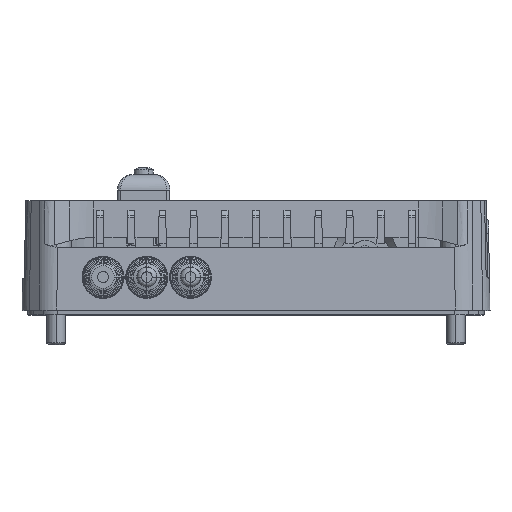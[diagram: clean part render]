
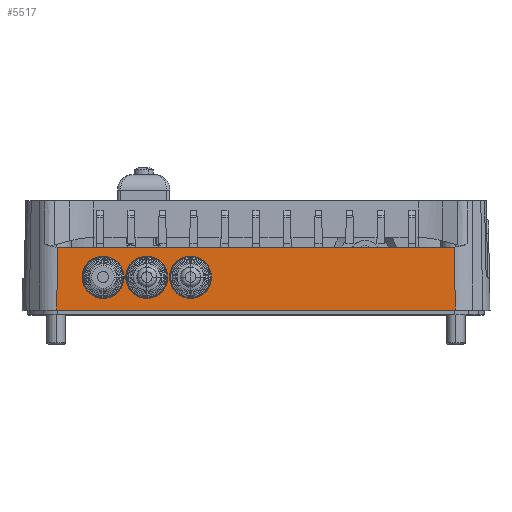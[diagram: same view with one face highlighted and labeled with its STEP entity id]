
A CAD part, top view. The second image highlights one B-rep face of the part: STEP entity #5517.
In plain terms, the highlighted planar face has unit normal (0, 0.018, 1).
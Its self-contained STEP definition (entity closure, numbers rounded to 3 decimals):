
#852 = CARTESIAN_POINT ( 'NONE',  ( 63.829, 0., 55. ) ) ;
#1308 =( BOUNDED_CURVE ( )  B_SPLINE_CURVE ( 3, ( #113474, #8303, #16390, #69906 ),
 .UNSPECIFIED., .F., .F. ) 
 B_SPLINE_CURVE_WITH_KNOTS ( ( 4, 4 ),
 ( 4.712, 7.854 ),
 .UNSPECIFIED. ) 
 CURVE ( )  GEOMETRIC_REPRESENTATION_ITEM ( )  RATIONAL_B_SPLINE_CURVE ( ( 1., 0.333, 0.333, 1. ) ) 
 REPRESENTATION_ITEM ( '' )  );
#1724 = EDGE_LOOP ( 'NONE', ( #67493, #62334 ) ) ;
#3405 = FACE_BOUND ( 'NONE', #1724, .T. ) ;
#3444 = CARTESIAN_POINT ( 'NONE',  ( -15.5, 10.5, 54.817 ) ) ;
#3655 = EDGE_CURVE ( 'NONE', #85251, #34090, #27007, .T. ) ;
#5517 = ADVANCED_FACE ( 'NONE', ( #44699, #3405, #21277, #84577 ), #25330, .T. ) ;
#7105 = CARTESIAN_POINT ( 'NONE',  ( -67.07, 20.178, 54.648 ) ) ;
#7570 = VERTEX_POINT ( 'NONE', #111844 ) ;
#8303 = CARTESIAN_POINT ( 'NONE',  ( -29.5, 21.5, 54.625 ) ) ;
#9274 = CARTESIAN_POINT ( 'NONE',  ( -26.5, 21.5, 54.625 ) ) ;
#9590 = LINE ( 'NONE', #39801, #27487 ) ;
#15529 = VERTEX_POINT ( 'NONE', #86764 ) ;
#15656 = CARTESIAN_POINT ( 'NONE',  ( -43.5, 10.5, 54.817 ) ) ;
#16091 = ORIENTED_EDGE ( 'NONE', *, *, #71201, .F. ) ;
#16390 = CARTESIAN_POINT ( 'NONE',  ( -40.5, 21.5, 54.625 ) ) ;
#17729 = CARTESIAN_POINT ( 'NONE',  ( -15.5, 21.5, 54.625 ) ) ;
#18499 = CARTESIAN_POINT ( 'NONE',  ( -15.5, 10.5, 54.817 ) ) ;
#18607 = EDGE_CURVE ( 'NONE', #53584, #15529, #71764, .T. ) ;
#19972 = CARTESIAN_POINT ( 'NONE',  ( -26.5, 10.5, 54.817 ) ) ;
#20124 = ORIENTED_EDGE ( 'NONE', *, *, #3655, .T. ) ;
#21277 = FACE_BOUND ( 'NONE', #60084, .T. ) ;
#22273 = CARTESIAN_POINT ( 'NONE',  ( -40.5, 10.5, 54.817 ) ) ;
#24814 = VERTEX_POINT ( 'NONE', #15656 ) ;
#25330 = PLANE ( 'NONE',  #49048 ) ;
#25420 = CARTESIAN_POINT ( 'NONE',  ( -54.5, 10.5, 54.817 ) ) ;
#26146 = ORIENTED_EDGE ( 'NONE', *, *, #42400, .T. ) ;
#27007 = LINE ( 'NONE', #42550, #83437 ) ;
#27162 = CARTESIAN_POINT ( 'NONE',  ( -54.5, 10.5, 54.817 ) ) ;
#27487 = VECTOR ( 'NONE', #57507, 1000. ) ;
#27928 = CARTESIAN_POINT ( 'NONE',  ( -43.5, -0.5, 55.009 ) ) ;
#32626 = LINE ( 'NONE', #78309, #113962 ) ;
#32895 = ORIENTED_EDGE ( 'NONE', *, *, #87074, .F. ) ;
#33044 = CARTESIAN_POINT ( 'NONE',  ( -43.5, 10.5, 54.817 ) ) ;
#34090 = VERTEX_POINT ( 'NONE', #78773 ) ;
#36036 = CARTESIAN_POINT ( 'NONE',  ( -54.5, -0.5, 55.009 ) ) ;
#37159 = EDGE_CURVE ( 'NONE', #65283, #113037, #9590, .T. ) ;
#37345 = LINE ( 'NONE', #7105, #88088 ) ;
#39801 = CARTESIAN_POINT ( 'NONE',  ( 63.829, -0.024, 55. ) ) ;
#41879 = CARTESIAN_POINT ( 'NONE',  ( -54.5, 21.5, 54.625 ) ) ;
#42400 = EDGE_CURVE ( 'NONE', #34090, #65283, #32626, .T. ) ;
#42550 = CARTESIAN_POINT ( 'NONE',  ( -63.822, 0.947, 54.983 ) ) ;
#44699 = FACE_OUTER_BOUND ( 'NONE', #75689, .T. ) ;
#48279 = CARTESIAN_POINT ( 'NONE',  ( -29.5, 10.5, 54.817 ) ) ;
#49048 = AXIS2_PLACEMENT_3D ( 'NONE', #61128, #86937, #69213 ) ;
#49479 = VERTEX_POINT ( 'NONE', #25420 ) ;
#49582 =( BOUNDED_CURVE ( )  B_SPLINE_CURVE ( 3, ( #22273, #83847, #100794, #83089 ),
 .UNSPECIFIED., .F., .F. ) 
 B_SPLINE_CURVE_WITH_KNOTS ( ( 4, 4 ),
 ( 1.571, 4.712 ),
 .UNSPECIFIED. ) 
 CURVE ( )  GEOMETRIC_REPRESENTATION_ITEM ( )  RATIONAL_B_SPLINE_CURVE ( ( 1., 0.333, 0.333, 1. ) ) 
 REPRESENTATION_ITEM ( '' )  );
#50672 = EDGE_CURVE ( 'NONE', #15529, #53584, #66631, .T. ) ;
#51737 = DIRECTION ( 'NONE',  ( 1., 0., 0. ) ) ;
#52384 = CARTESIAN_POINT ( 'NONE',  ( -26.5, 10.5, 54.817 ) ) ;
#53584 = VERTEX_POINT ( 'NONE', #3444 ) ;
#54118 = CARTESIAN_POINT ( 'NONE',  ( -43.5, 10.5, 54.817 ) ) ;
#55628 = EDGE_CURVE ( 'NONE', #85251, #113037, #37345, .T. ) ;
#57507 = DIRECTION ( 'NONE',  ( -0.007, 1., -0.017 ) ) ;
#59215 = CARTESIAN_POINT ( 'NONE',  ( -43.5, 21.5, 54.625 ) ) ;
#59501 =( BOUNDED_CURVE ( )  B_SPLINE_CURVE ( 3, ( #27162, #36036, #27928, #54118 ),
 .UNSPECIFIED., .F., .F. ) 
 B_SPLINE_CURVE_WITH_KNOTS ( ( 4, 4 ),
 ( 1.571, 4.712 ),
 .UNSPECIFIED. ) 
 CURVE ( )  GEOMETRIC_REPRESENTATION_ITEM ( )  RATIONAL_B_SPLINE_CURVE ( ( 1., 0.333, 0.333, 1. ) ) 
 REPRESENTATION_ITEM ( '' )  );
#60084 = EDGE_LOOP ( 'NONE', ( #109109, #32895 ) ) ;
#61128 = CARTESIAN_POINT ( 'NONE',  ( 67.142, 0., 55. ) ) ;
#62334 = ORIENTED_EDGE ( 'NONE', *, *, #18607, .F. ) ;
#65283 = VERTEX_POINT ( 'NONE', #852 ) ;
#66631 =( BOUNDED_CURVE ( )  B_SPLINE_CURVE ( 3, ( #19972, #90443, #81587, #90051 ),
 .UNSPECIFIED., .F., .F. ) 
 B_SPLINE_CURVE_WITH_KNOTS ( ( 4, 4 ),
 ( 1.571, 4.712 ),
 .UNSPECIFIED. ) 
 CURVE ( )  GEOMETRIC_REPRESENTATION_ITEM ( )  RATIONAL_B_SPLINE_CURVE ( ( 1., 0.333, 0.333, 1. ) ) 
 REPRESENTATION_ITEM ( '' )  );
#67493 = ORIENTED_EDGE ( 'NONE', *, *, #50672, .F. ) ;
#69048 = DIRECTION ( 'NONE',  ( 1., 0., 0. ) ) ;
#69213 = DIRECTION ( 'NONE',  ( 0., -1., 0.017 ) ) ;
#69906 = CARTESIAN_POINT ( 'NONE',  ( -40.5, 10.5, 54.817 ) ) ;
#71201 = EDGE_CURVE ( 'NONE', #49479, #24814, #59501, .T. ) ;
#71764 =( BOUNDED_CURVE ( )  B_SPLINE_CURVE ( 3, ( #18499, #17729, #9274, #52384 ),
 .UNSPECIFIED., .F., .F. ) 
 B_SPLINE_CURVE_WITH_KNOTS ( ( 4, 4 ),
 ( 4.712, 7.854 ),
 .UNSPECIFIED. ) 
 CURVE ( )  GEOMETRIC_REPRESENTATION_ITEM ( )  RATIONAL_B_SPLINE_CURVE ( ( 1., 0.333, 0.333, 1. ) ) 
 REPRESENTATION_ITEM ( '' )  );
#72039 = ORIENTED_EDGE ( 'NONE', *, *, #37159, .T. ) ;
#73728 = EDGE_LOOP ( 'NONE', ( #16091, #94899 ) ) ;
#74111 = EDGE_CURVE ( 'NONE', #7570, #98490, #49582, .T. ) ;
#74238 = EDGE_CURVE ( 'NONE', #24814, #49479, #109613, .T. ) ;
#75689 = EDGE_LOOP ( 'NONE', ( #26146, #72039, #87581, #20124 ) ) ;
#78309 = CARTESIAN_POINT ( 'NONE',  ( 67.142, 0., 55. ) ) ;
#78773 = CARTESIAN_POINT ( 'NONE',  ( -63.829, 0., 55. ) ) ;
#81587 = CARTESIAN_POINT ( 'NONE',  ( -15.5, -0.5, 55.009 ) ) ;
#83089 = CARTESIAN_POINT ( 'NONE',  ( -29.5, 10.5, 54.817 ) ) ;
#83437 = VECTOR ( 'NONE', #86786, 1000. ) ;
#83847 = CARTESIAN_POINT ( 'NONE',  ( -40.5, -0.5, 55.009 ) ) ;
#84528 = CARTESIAN_POINT ( 'NONE',  ( -63.683, 20.178, 54.648 ) ) ;
#84577 = FACE_BOUND ( 'NONE', #73728, .T. ) ;
#85251 = VERTEX_POINT ( 'NONE', #84528 ) ;
#86764 = CARTESIAN_POINT ( 'NONE',  ( -26.5, 10.5, 54.817 ) ) ;
#86786 = DIRECTION ( 'NONE',  ( -0.007, -1., 0.017 ) ) ;
#86937 = DIRECTION ( 'NONE',  ( 0., 0.017, 1. ) ) ;
#87074 = EDGE_CURVE ( 'NONE', #98490, #7570, #1308, .T. ) ;
#87441 = CARTESIAN_POINT ( 'NONE',  ( 63.683, 20.178, 54.648 ) ) ;
#87581 = ORIENTED_EDGE ( 'NONE', *, *, #55628, .F. ) ;
#88088 = VECTOR ( 'NONE', #69048, 1000. ) ;
#90051 = CARTESIAN_POINT ( 'NONE',  ( -15.5, 10.5, 54.817 ) ) ;
#90443 = CARTESIAN_POINT ( 'NONE',  ( -26.5, -0.5, 55.009 ) ) ;
#94899 = ORIENTED_EDGE ( 'NONE', *, *, #74238, .F. ) ;
#98490 = VERTEX_POINT ( 'NONE', #48279 ) ;
#100794 = CARTESIAN_POINT ( 'NONE',  ( -29.5, -0.5, 55.009 ) ) ;
#109109 = ORIENTED_EDGE ( 'NONE', *, *, #74111, .F. ) ;
#109613 =( BOUNDED_CURVE ( )  B_SPLINE_CURVE ( 3, ( #33044, #59215, #41879, #112367 ),
 .UNSPECIFIED., .F., .F. ) 
 B_SPLINE_CURVE_WITH_KNOTS ( ( 4, 4 ),
 ( 4.712, 7.854 ),
 .UNSPECIFIED. ) 
 CURVE ( )  GEOMETRIC_REPRESENTATION_ITEM ( )  RATIONAL_B_SPLINE_CURVE ( ( 1., 0.333, 0.333, 1. ) ) 
 REPRESENTATION_ITEM ( '' )  );
#111844 = CARTESIAN_POINT ( 'NONE',  ( -40.5, 10.5, 54.817 ) ) ;
#112367 = CARTESIAN_POINT ( 'NONE',  ( -54.5, 10.5, 54.817 ) ) ;
#113037 = VERTEX_POINT ( 'NONE', #87441 ) ;
#113474 = CARTESIAN_POINT ( 'NONE',  ( -29.5, 10.5, 54.817 ) ) ;
#113962 = VECTOR ( 'NONE', #51737, 1000. ) ;
